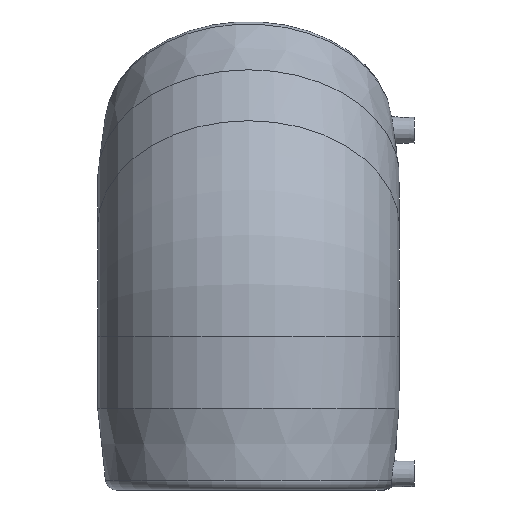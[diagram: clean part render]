
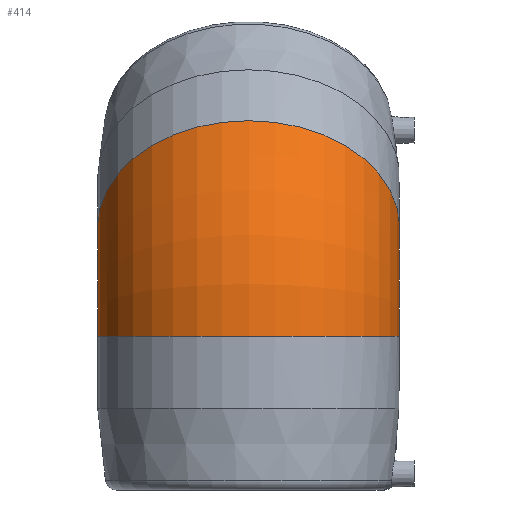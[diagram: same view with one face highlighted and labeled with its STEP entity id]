
A CAD part, left-side view. The second image highlights one B-rep face of the part: STEP entity #414.
In plain terms, the highlighted toroidal (fillet/blend) face has major radius 113.468 mm and minor radius 111 mm.
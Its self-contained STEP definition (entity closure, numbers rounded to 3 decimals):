
#23=TOROIDAL_SURFACE('',#483,113.468,111.);
#110=ORIENTED_EDGE('',*,*,#178,.F.);
#111=ORIENTED_EDGE('',*,*,#177,.T.);
#177=EDGE_CURVE('',#220,#220,#248,.F.);
#178=EDGE_CURVE('',#221,#221,#249,.F.);
#220=VERTEX_POINT('',#807);
#221=VERTEX_POINT('',#810);
#248=CIRCLE('',#482,111.);
#249=CIRCLE('',#484,111.);
#299=EDGE_LOOP('',(#110));
#300=EDGE_LOOP('',(#111));
#360=FACE_BOUND('',#299,.T.);
#361=FACE_BOUND('',#300,.T.);
#414=ADVANCED_FACE('',(#360,#361),#23,.T.);
#482=AXIS2_PLACEMENT_3D('',#806,#590,#591);
#483=AXIS2_PLACEMENT_3D('',#808,#592,#593);
#484=AXIS2_PLACEMENT_3D('',#809,#594,#595);
#590=DIRECTION('',(0.,0.,-1.));
#591=DIRECTION('',(1.,0.,0.));
#592=DIRECTION('',(0.,1.,0.));
#593=DIRECTION('',(0.,0.,1.));
#594=DIRECTION('',(-0.707,0.,-0.707));
#595=DIRECTION('',(0.707,0.,-0.707));
#806=CARTESIAN_POINT('',(0.,0.,-47.));
#807=CARTESIAN_POINT('',(111.,0.,-47.));
#808=CARTESIAN_POINT('',(113.468,0.,-47.));
#809=CARTESIAN_POINT('',(33.234,0.,33.234));
#810=CARTESIAN_POINT('',(111.723,0.,-45.255));
